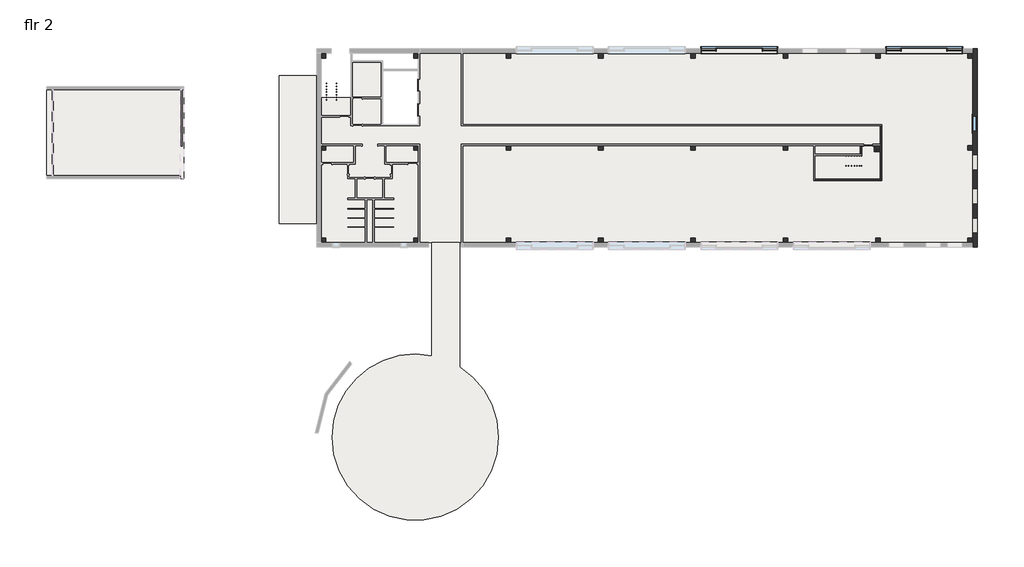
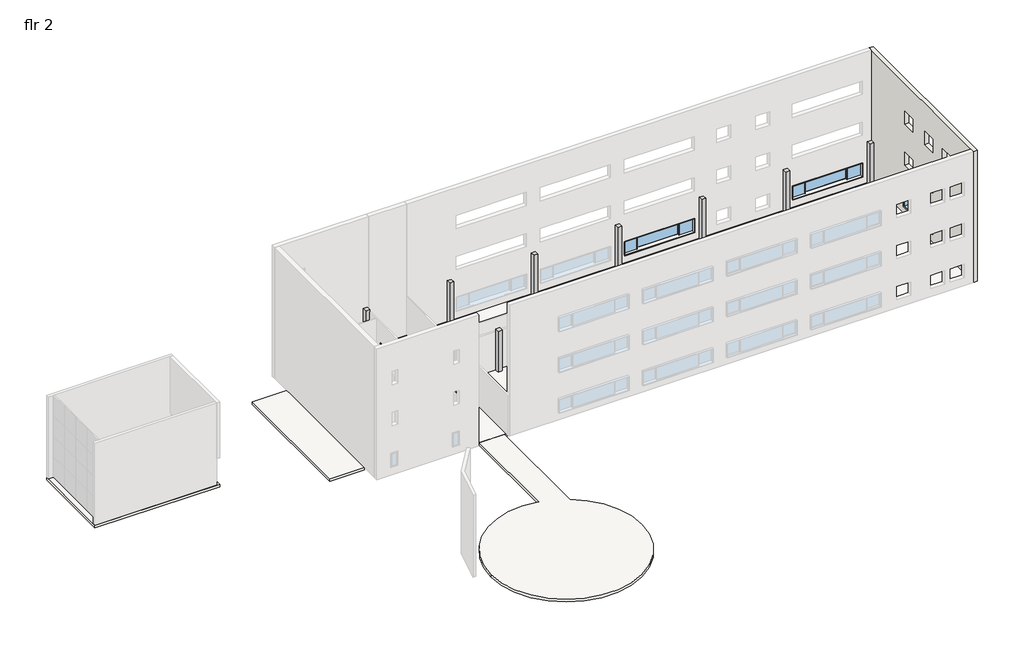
# One storey, part 3 of 3: 24 columns, 6 walls, 4 railings, 4 slabs, 3 windows, 2 proxies, 1 door.
"""IFC4 building model written with IfcOpenShell, lengths in millimetres."""

from ifc_helpers import new_model, si_unit, point, frame, frame_2d, origin, place, context, project, spatial, polyline, circle_curve, trimmed, segment, composite_curve, outline, extrude, faceted_brep, transform, mapped, element, save
from components import proxy_ae548678, column_f6efb254, door_9814c99b, stair_railing_1_b6fe675f, stair_railing_1_c17154a6, stair_railing_1_abf2b38f, stair_railing_1_1af9ef93, fixed_25_x5_r1_fixed_25_x5_r1_81c53d64, fixed_5_x5_e2f24dca

model = new_model("IFC4")

# Units and contexts
model_context = context("Model", 3, world=origin())
ifc_project = project(units=[si_unit("LENGTHUNIT", "METRE", prefix="MILLI")], contexts=[model_context])

# Site, building, storey
site = spatial("IfcSite", under=ifc_project)
building = spatial("IfcBuilding", under=site)
storey = spatial("IfcBuildingStorey", under=building, Name="flr 2", Elevation=5486.4)

# Proxies
placement = place(None, origin())
proxy_shape = proxy_ae548678(model_context)
element("IfcBuildingElementProxy", 1, Name="Elevator-Center : 72\" x 114\" Hospital min.", ObjectType="Elevator-Center : 72\" x 114\" Hospital min.", at=placement, inside=storey, context=model_context, shape_type="MappedRepresentation", body=[
    mapped(proxy_shape, transform((-105880.840902, 38348.4927472, 5486.4), x_axis=(0.0, 1.0, 0.0), y_axis=(-1.0, 0.0, 0.0), z_axis=(0.0, 0.0, 1.0))),
])
element("IfcBuildingElementProxy", 2, Name="Elevator-Center : 72\" x 114\" Hospital min.", ObjectType="Elevator-Center : 72\" x 114\" Hospital min.", at=placement, inside=storey, context=model_context, shape_type="MappedRepresentation", body=[
    mapped(proxy_shape, transform((-105880.840902, 40786.8927472, 5486.4), x_axis=(0.0, 1.0, 0.0), y_axis=(-1.0, 0.0, 0.0), z_axis=(0.0, 0.0, 1.0))),
])

# Columns
element("IfcColumn", 3, ObjectType="Rectangular Column : 18\" x 18\"", at=placement, inside=storey, context=model_context, shape_type="SweptSolid", body=[
    extrude(outline(polyline([(-105950.690902, 25543.0071029), (-105950.690902, 25085.8071029), (-106407.890902, 25085.8071029), (-106407.890902, 25543.0071029), (-105950.690902, 25543.0071029)])), frame((0.0, 0.0, 5486.4), z_axis=(0.0, 0.0, 1.0), x_axis=(1.0, 0.0, 0.0)), (0.0, 0.0, 1.0), 4724.4),
])
element("IfcColumn", 4, ObjectType="Rectangular Column : 18\" x 18\"", at=placement, inside=storey, context=model_context, shape_type="SweptSolid", body=[
    extrude(outline(polyline([(-115094.690902, 34687.0071029), (-115094.690902, 34229.8071029), (-115551.890902, 34229.8071029), (-115551.890902, 34687.0071029), (-115094.690902, 34687.0071029)])), frame((0.0, 0.0, 5486.4), z_axis=(0.0, 0.0, 1.0), x_axis=(1.0, 0.0, 0.0)), (0.0, 0.0, 1.0), 4724.4),
])
element("IfcColumn", 5, ObjectType="Rectangular Column : 18\" x 18\"", at=placement, inside=storey, context=model_context, shape_type="SweptSolid", body=[
    extrude(outline(polyline([(-105950.690902, 34687.0071029), (-105950.690902, 34229.8071029), (-106407.890902, 34229.8071029), (-106407.890902, 34687.0071029), (-105950.690902, 34687.0071029)])), frame((0.0, 0.0, 5486.4), z_axis=(0.0, 0.0, 1.0), x_axis=(1.0, 0.0, 0.0)), (0.0, 0.0, 1.0), 4724.4),
])
element("IfcColumn", 6, ObjectType="Rectangular Column : 18\" x 18\"", at=placement, inside=storey, context=model_context, shape_type="SweptSolid", body=[
    extrude(outline(polyline([(-96806.690902, 34687.0071029), (-96806.690902, 34229.8071029), (-97263.890902, 34229.8071029), (-97263.890902, 34687.0071029), (-96806.690902, 34687.0071029)])), frame((0.0, 0.0, 5486.4), z_axis=(0.0, 0.0, 1.0), x_axis=(1.0, 0.0, 0.0)), (0.0, 0.0, 1.0), 4724.4),
])
element("IfcColumn", 7, ObjectType="Rectangular Column : 18\" x 18\"", at=placement, inside=storey, context=model_context, shape_type="SweptSolid", body=[
    extrude(outline(polyline([(-87662.690902, 34687.0071029), (-87662.690902, 34229.8071029), (-88119.890902, 34229.8071029), (-88119.890902, 34687.0071029), (-87662.690902, 34687.0071029)])), frame((0.0, 0.0, 5486.4), z_axis=(0.0, 0.0, 1.0), x_axis=(1.0, 0.0, 0.0)), (0.0, 0.0, 1.0), 4724.4),
])
element("IfcColumn", 8, ObjectType="Rectangular Column : 18\" x 18\"", at=placement, inside=storey, context=model_context, shape_type="SweptSolid", body=[
    extrude(outline(polyline([(-78518.690902, 34687.0071029), (-78518.690902, 34229.8071029), (-78975.890902, 34229.8071029), (-78975.890902, 34687.0071029), (-78518.690902, 34687.0071029)])), frame((0.0, 0.0, 5486.4), z_axis=(0.0, 0.0, 1.0), x_axis=(1.0, 0.0, 0.0)), (0.0, 0.0, 1.0), 4724.4),
])
element("IfcColumn", 9, ObjectType="Rectangular Column : 18\" x 18\"", at=placement, inside=storey, context=model_context, shape_type="SweptSolid", body=[
    extrude(outline(polyline([(-69374.690902, 34687.0071029), (-69374.690902, 34229.8071029), (-69831.890902, 34229.8071029), (-69831.890902, 34687.0071029), (-69374.690902, 34687.0071029)])), frame((0.0, 0.0, 5486.4), z_axis=(0.0, 0.0, 1.0), x_axis=(1.0, 0.0, 0.0)), (0.0, 0.0, 1.0), 4724.4),
])
element("IfcColumn", 10, ObjectType="Rectangular Column : 18\" x 18\"", at=placement, inside=storey, context=model_context, shape_type="SweptSolid", body=[
    extrude(outline(polyline([(-60230.690902, 34687.0071029), (-60230.690902, 34229.8071029), (-60687.890902, 34229.8071029), (-60687.890902, 34687.0071029), (-60230.690902, 34687.0071029)])), frame((0.0, 0.0, 5486.4), z_axis=(0.0, 0.0, 1.0), x_axis=(1.0, 0.0, 0.0)), (0.0, 0.0, 1.0), 4724.4),
])
element("IfcColumn", 11, ObjectType="Rectangular Column : 18\" x 18\"", at=placement, inside=storey, context=model_context, shape_type="SweptSolid", body=[
    extrude(outline(polyline([(-105950.690902, 43831.0071029), (-105950.690902, 43373.8071029), (-106407.890902, 43373.8071029), (-106407.890902, 43831.0071029), (-105950.690902, 43831.0071029)])), frame((0.0, 0.0, 5486.4), z_axis=(0.0, 0.0, 1.0), x_axis=(1.0, 0.0, 0.0)), (0.0, 0.0, 1.0), 4724.4),
])
column_shape = column_f6efb254(model_context)
element("IfcColumn", 12, ObjectType="Rectangular Column : 18\" x 18\"", at=placement, inside=storey, context=model_context, shape_type="MappedRepresentation", body=[
    mapped(column_shape, transform((-115323.290902, 25314.4071029, 0.0), x_axis=(1.0, 0.0, 0.0), y_axis=(0.0, 1.0, 0.0), z_axis=(0.0, 0.0, 1.0))),
])
element("IfcColumn", 13, ObjectType="Rectangular Column : 18\" x 18\"", at=placement, inside=storey, context=model_context, shape_type="MappedRepresentation", body=[
    mapped(column_shape, transform((-97035.290902, 25314.4071029, 0.0), x_axis=(1.0, 0.0, 0.0), y_axis=(0.0, 1.0, 0.0), z_axis=(0.0, 0.0, 1.0))),
])
element("IfcColumn", 14, ObjectType="Rectangular Column : 18\" x 18\"", at=placement, inside=storey, context=model_context, shape_type="MappedRepresentation", body=[
    mapped(column_shape, transform((-87891.290902, 25314.4071029, 0.0), x_axis=(1.0, 0.0, 0.0), y_axis=(0.0, 1.0, 0.0), z_axis=(0.0, 0.0, 1.0))),
])
element("IfcColumn", 15, ObjectType="Rectangular Column : 18\" x 18\"", at=placement, inside=storey, context=model_context, shape_type="MappedRepresentation", body=[
    mapped(column_shape, transform((-78747.290902, 25314.4071029, 0.0), x_axis=(1.0, 0.0, 0.0), y_axis=(0.0, 1.0, 0.0), z_axis=(0.0, 0.0, 1.0))),
])
element("IfcColumn", 16, ObjectType="Rectangular Column : 18\" x 18\"", at=placement, inside=storey, context=model_context, shape_type="MappedRepresentation", body=[
    mapped(column_shape, transform((-69603.290902, 25314.4071029, 0.0), x_axis=(1.0, 0.0, 0.0), y_axis=(0.0, 1.0, 0.0), z_axis=(0.0, 0.0, 1.0))),
])
element("IfcColumn", 17, ObjectType="Rectangular Column : 18\" x 18\"", at=placement, inside=storey, context=model_context, shape_type="MappedRepresentation", body=[
    mapped(column_shape, transform((-60459.290902, 25314.4071029, 0.0), x_axis=(1.0, 0.0, 0.0), y_axis=(0.0, 1.0, 0.0), z_axis=(0.0, 0.0, 1.0))),
])
element("IfcColumn", 18, ObjectType="Rectangular Column : 18\" x 18\"", at=placement, inside=storey, context=model_context, shape_type="MappedRepresentation", body=[
    mapped(column_shape, transform((-51315.290902, 25314.4071029, 0.0), x_axis=(1.0, 0.0, 0.0), y_axis=(0.0, 1.0, 0.0), z_axis=(0.0, 0.0, 1.0))),
])
element("IfcColumn", 19, ObjectType="Rectangular Column : 18\" x 18\"", at=placement, inside=storey, context=model_context, shape_type="MappedRepresentation", body=[
    mapped(column_shape, transform((-51315.290902, 34458.4071029, 0.0), x_axis=(1.0, 0.0, 0.0), y_axis=(0.0, 1.0, 0.0), z_axis=(0.0, 0.0, 1.0))),
])
element("IfcColumn", 20, ObjectType="Rectangular Column : 18\" x 18\"", at=placement, inside=storey, context=model_context, shape_type="MappedRepresentation", body=[
    mapped(column_shape, transform((-115323.290902, 43602.4071029, 0.0), x_axis=(1.0, 0.0, 0.0), y_axis=(0.0, 1.0, 0.0), z_axis=(0.0, 0.0, 1.0))),
])
element("IfcColumn", 21, ObjectType="Rectangular Column : 18\" x 18\"", at=placement, inside=storey, context=model_context, shape_type="MappedRepresentation", body=[
    mapped(column_shape, transform((-97035.290902, 43602.4071029, 0.0), x_axis=(1.0, 0.0, 0.0), y_axis=(0.0, 1.0, 0.0), z_axis=(0.0, 0.0, 1.0))),
])
element("IfcColumn", 22, ObjectType="Rectangular Column : 18\" x 18\"", at=placement, inside=storey, context=model_context, shape_type="MappedRepresentation", body=[
    mapped(column_shape, transform((-87891.290902, 43602.4071029, 0.0), x_axis=(1.0, 0.0, 0.0), y_axis=(0.0, 1.0, 0.0), z_axis=(0.0, 0.0, 1.0))),
])
element("IfcColumn", 23, ObjectType="Rectangular Column : 18\" x 18\"", at=placement, inside=storey, context=model_context, shape_type="MappedRepresentation", body=[
    mapped(column_shape, transform((-78747.290902, 43602.4071029, 0.0), x_axis=(1.0, 0.0, 0.0), y_axis=(0.0, 1.0, 0.0), z_axis=(0.0, 0.0, 1.0))),
])
element("IfcColumn", 24, ObjectType="Rectangular Column : 18\" x 18\"", at=placement, inside=storey, context=model_context, shape_type="MappedRepresentation", body=[
    mapped(column_shape, transform((-69603.290902, 43602.4071029, 0.0), x_axis=(1.0, 0.0, 0.0), y_axis=(0.0, 1.0, 0.0), z_axis=(0.0, 0.0, 1.0))),
])
element("IfcColumn", 25, ObjectType="Rectangular Column : 18\" x 18\"", at=placement, inside=storey, context=model_context, shape_type="MappedRepresentation", body=[
    mapped(column_shape, transform((-60459.290902, 43602.4071029, 0.0), x_axis=(1.0, 0.0, 0.0), y_axis=(0.0, 1.0, 0.0), z_axis=(0.0, 0.0, 1.0))),
])
element("IfcColumn", 26, ObjectType="Rectangular Column : 18\" x 18\"", at=placement, inside=storey, context=model_context, shape_type="MappedRepresentation", body=[
    mapped(column_shape, transform((-51315.290902, 43602.4071029, 0.0), x_axis=(1.0, 0.0, 0.0), y_axis=(0.0, 1.0, 0.0), z_axis=(0.0, 0.0, 1.0))),
])

# Door
door_shape = door_9814c99b(model_context)
element("IfcDoor", 27, ObjectType="Sgl Flush : 36\" x 84\"", at=placement, inside=storey, context=model_context, shape_type="MappedRepresentation", body=[
    mapped(door_shape, transform((-61399.090902, 34756.8571029, 5486.4), x_axis=(1.0, 0.0, 0.0), y_axis=(0.0, 1.0, 0.0), z_axis=(0.0, 0.0, 1.0))),
])

# Railings
stair_railing_1_shape = stair_railing_1_b6fe675f(model_context)
element("IfcRailing", 28, ObjectType="Stair Railing 1", at=placement, inside=storey, context=model_context, shape_type="MappedRepresentation", body=[
    mapped(stair_railing_1_shape, transform((0.0, 0.0, 0.0), x_axis=(1.0, 0.0, 0.0), y_axis=(0.0, 1.0, 0.0), z_axis=(0.0, 0.0, 1.0))),
])
stair_railing_1_2_shape = stair_railing_1_c17154a6(model_context)
element("IfcRailing", 29, ObjectType="Stair Railing 1", at=placement, inside=storey, context=model_context, shape_type="MappedRepresentation", body=[
    mapped(stair_railing_1_2_shape, transform((0.0, 0.0, 0.0), x_axis=(1.0, 0.0, 0.0), y_axis=(0.0, 1.0, 0.0), z_axis=(0.0, 0.0, 1.0))),
])
stair_railing_1_3_shape = stair_railing_1_abf2b38f(model_context)
element("IfcRailing", 30, ObjectType="Stair Railing 1", at=placement, inside=storey, context=model_context, shape_type="MappedRepresentation", body=[
    mapped(stair_railing_1_3_shape, transform((0.0, 0.0, 0.0), x_axis=(1.0, 0.0, 0.0), y_axis=(0.0, 1.0, 0.0), z_axis=(0.0, 0.0, 1.0))),
])
stair_railing_1_4_shape = stair_railing_1_1af9ef93(model_context)
element("IfcRailing", 31, ObjectType="Stair Railing 1", at=placement, inside=storey, context=model_context, shape_type="MappedRepresentation", body=[
    mapped(stair_railing_1_4_shape, transform((0.0, 0.0, 0.0), x_axis=(1.0, 0.0, 0.0), y_axis=(0.0, 1.0, 0.0), z_axis=(0.0, 0.0, 1.0))),
])

# Slabs
element("IfcSlab", 32, ObjectType="Generic - 12\"", at=placement, inside=storey, context=model_context, shape_type="SweptSolid", body=[
    extrude(outline(polyline([(-129194.865902, 40551.2321029), (-129194.865902, 31420.1262968), (-142755.290902, 31420.1262968), (-142755.290902, 40551.2321029), (-129194.865902, 40551.2321029)])), frame((0.0, 0.0, 5181.6), z_axis=(0.0, 0.0, 1.0), x_axis=(1.0, 0.0, 0.0)), (0.0, 0.0, 1.0), 304.8),
])
element("IfcSlab", 33, ObjectType="Generic - 12\"", at=placement, inside=storey, context=model_context, shape_type="SweptSolid", body=[
    extrude(outline(polyline([(-119739.715902, 41618.0321029), (-116007.8828209, 41618.0321029), (-116007.8828209, 26993.9821029), (-119739.715902, 26993.9821029), (-119739.715902, 41618.0321029)])), frame((0.0, 0.0, 5181.6), z_axis=(0.0, 0.0, 1.0), x_axis=(1.0, 0.0, 0.0)), (0.0, 0.0, 1.0), 304.8),
])
element("IfcSlab", 34, ObjectType="Generic - 12\"", at=placement, inside=storey, context=model_context, shape_type="SweptSolid", body=[
    extrude(outline(composite_curve([segment(trimmed(circle_curve(frame_2d((-106255.490902, 5807.2071029)), 8229.6), [point((-101864.8074925, 12767.6823279))], [point((-98025.890902, 5807.2071029))], False, "CARTESIAN"), True, "CONTINUOUS"), segment(trimmed(circle_curve(frame_2d((-106255.490902, 5807.2071029)), 8229.6), [point((-98025.890902, 5807.2071029))], [point((-114485.090902, 5807.2071029))], False, "CARTESIAN"), True, "CONTINUOUS"), segment(trimmed(circle_curve(frame_2d((-106255.490902, 5807.2071029)), 8229.6), [point((-114485.090902, 5807.2071029))], [point((-104601.6574925, 13868.9160541))], False, "CARTESIAN"), True, "CONTINUOUS"), segment(polyline([(-104601.6574925, 13868.9160541), (-104601.6574925, 25084.2196029), (-101864.8074925, 25084.2196029), (-101864.8074925, 12767.6823279)]), True, "CONTINUOUS")], self_intersect=False)), frame((0.0, 0.0, 5181.6), z_axis=(0.0, 0.0, 1.0), x_axis=(1.0, 0.0, 0.0)), (0.0, 0.0, 1.0), 304.8),
])
element("IfcSlab", 35, ObjectType="Generic - 12\"", at=placement, inside=storey, context=model_context, shape_type="SweptSolid", body=[
    extrude(outline(polyline([(-51085.103402, 43832.5946029), (-51085.103402, 25084.2196029), (-115553.8578209, 25084.2196029), (-115553.8578209, 39436.8071029), (-112649.940902, 39436.8071029), (-112649.940902, 43119.8071029), (-109493.990902, 43119.8071029), (-109493.990902, 36795.2071029), (-105950.690902, 36795.2071029), (-105950.690902, 43832.5946029), (-51085.103402, 43832.5946029)])), frame((0.0, 0.0, 5181.6), z_axis=(0.0, 0.0, 1.0), x_axis=(1.0, 0.0, 0.0)), (0.0, 0.0, 1.0), 304.8),
])

# Walls
element("IfcWall", 36, ObjectType="Interior - 5 1/2\" Partition (1-hr)", at=placement, inside=storey, context=model_context, shape_type="Brep", body=[
    faceted_brep([(-60230.690902, 36655.5071029, 5486.4), (-60230.690902, 34826.7071029, 5486.4), (-60230.690902, 34687.0071029, 5486.4), (-60230.690902, 34229.8071029, 5486.4), (-60230.690902, 34090.1071029, 5486.4), (-60230.690902, 31372.3071029, 5486.4), (-60230.690902, 31232.6071029, 5486.4), (-60230.690902, 31232.6071029, 9906.0), (-60230.690902, 31372.3071029, 9906.0), (-60230.690902, 34090.1071029, 9906.0), (-60230.690902, 34229.8071029, 9906.0), (-60230.690902, 34687.0071029, 9906.0), (-60230.690902, 34826.7071029, 9906.0), (-60230.690902, 36655.5071029, 9906.0), (-60090.990902, 36655.5071029, 5486.4), (-60090.990902, 36655.5071029, 9906.0), (-60090.990902, 31232.6071029, 9906.0), (-60090.990902, 31232.6071029, 5486.4)], [[[0, 1, 2, 3, 4, 5, 6, 7, 8, 9, 10, 11, 12, 13]], [[14, 15, 16, 17]], [[6, 5, 4, 3, 2, 1, 0, 14, 17]], [[7, 6, 17, 16]], [[0, 13, 15, 14]], [[13, 12, 11, 10, 9, 8, 7, 16, 15]]]),
])
element("IfcWall", 37, ObjectType="Interior - 5 1/2\" Partition (1-hr)", at=placement, inside=storey, context=model_context, shape_type="SweptSolid", body=[
    extrude(outline(polyline([(-62205.540902, 33867.8571029), (-62205.540902, 34687.0071029), (-62065.840902, 34687.0071029), (-62065.840902, 33867.8571029), (-62205.540902, 33867.8571029)])), frame((0.0, 0.0, 5486.4), z_axis=(0.0, 0.0, 1.0), x_axis=(1.0, 0.0, 0.0)), (0.0, 0.0, 1.0), 4419.6),
])
element("IfcWall", 38, ObjectType="Interior - 5 1/2\" Partition (1-hr)", at=placement, inside=storey, context=model_context, shape_type="Brep", body=[
    faceted_brep([(-60827.590902, 34687.0071029, 5486.4), (-60827.590902, 34090.1071029, 5486.4), (-60827.590902, 34090.1071029, 9906.0), (-60827.590902, 34687.0071029, 9906.0), (-60687.890902, 34687.0071029, 5486.4), (-60687.890902, 34687.0071029, 9906.0), (-60687.890902, 34229.8071029, 9906.0), (-60687.890902, 34090.1071029, 9906.0), (-60687.890902, 34090.1071029, 5486.4), (-60687.890902, 34229.8071029, 5486.4)], [[[0, 1, 2, 3]], [[4, 5, 6, 7, 8, 9]], [[1, 0, 4, 9, 8]], [[2, 1, 8, 7]], [[0, 3, 5, 4]], [[3, 2, 7, 6, 5]]]),
])
element("IfcWall", 39, ObjectType="Interior - 5 1/2\" Partition (1-hr)", at=placement, inside=storey, context=model_context, shape_type="SweptSolid", body=[
    extrude(outline(polyline([(-60687.890902, 34229.8071029), (-60230.690902, 34229.8071029), (-60230.690902, 34090.1071029), (-60687.890902, 34090.1071029), (-60687.890902, 34229.8071029)])), frame((0.0, 0.0, 5486.4), z_axis=(0.0, 0.0, 1.0), x_axis=(1.0, 0.0, 0.0)), (0.0, 0.0, 1.0), 4419.6),
])
element("IfcWall", 40, ObjectType="Interior - 5 1/2\" Partition (1-hr)", at=placement, inside=storey, context=model_context, shape_type="Brep", body=[
    faceted_brep([(-66688.640902, 31232.6071029, 5486.4), (-60230.690902, 31232.6071029, 5486.4), (-60230.690902, 31232.6071029, 9906.0), (-66688.640902, 31232.6071029, 9906.0), (-66688.640902, 31372.3071029, 5486.4), (-66688.640902, 31372.3071029, 9906.0), (-62318.5594944, 31372.3071029, 9906.0), (-60230.690902, 31372.3071029, 9906.0), (-60230.690902, 31372.3071029, 5486.4)], [[[0, 1, 2, 3]], [[4, 5, 6, 7, 8]], [[1, 0, 4, 8]], [[0, 3, 5, 4]], [[2, 1, 8, 7]], [[3, 2, 7, 6, 5]]]),
])
element("IfcWall", 41, ObjectType="a_Stone on CMU", at=placement, inside=storey, context=model_context, shape_type="Brep", body=[
    faceted_brep([(-51085.103402, 44286.6196029, 5486.4), (-51085.103402, 43832.5946029, 5486.4), (-51085.103402, 25084.2196029, 5486.4), (-51085.103402, 24630.1946029, 5486.4), (-51085.103402, 24630.1946029, 20574.0), (-51085.103402, 25084.2196029, 20574.0), (-51085.103402, 43832.5946029, 20574.0), (-51085.103402, 44286.6196029, 20574.0), (-51085.103402, 36058.6071029, 17373.6), (-51085.103402, 36058.6071029, 15849.6), (-51085.103402, 37582.6071029, 15849.6), (-51085.103402, 37582.6071029, 17373.6), (-51085.103402, 36058.6071029, 12649.2), (-51085.103402, 36058.6071029, 11125.2), (-51085.103402, 37582.6071029, 11125.2), (-51085.103402, 37582.6071029, 12649.2), (-51085.103402, 36109.4071029, 7924.8), (-51085.103402, 36109.4071029, 6400.8), (-51085.103402, 37633.4071029, 6400.8), (-51085.103402, 37633.4071029, 7924.8), (-51085.103402, 26019.2571029, 12649.2), (-51085.103402, 26019.2571029, 11125.2), (-51085.103402, 27543.2571029, 11125.2), (-51085.103402, 27543.2571029, 12649.2), (-51085.103402, 32267.6571029, 12649.2), (-51085.103402, 32267.6571029, 11125.2), (-51085.103402, 33791.6571029, 11125.2), (-51085.103402, 33791.6571029, 12649.2), (-51085.103402, 28914.8571029, 12649.2), (-51085.103402, 28914.8571029, 11125.2), (-51085.103402, 30438.8571029, 11125.2), (-51085.103402, 30438.8571029, 12649.2), (-51085.103402, 26019.2571029, 7899.4), (-51085.103402, 26019.2571029, 6375.4), (-51085.103402, 27543.2571029, 6375.4), (-51085.103402, 27543.2571029, 7899.4), (-51085.103402, 32267.6571029, 7899.4), (-51085.103402, 32267.6571029, 6375.4), (-51085.103402, 33791.6571029, 6375.4), (-51085.103402, 33791.6571029, 7899.4), (-51085.103402, 28914.8571029, 7899.4), (-51085.103402, 28914.8571029, 6375.4), (-51085.103402, 30438.8571029, 6375.4), (-51085.103402, 30438.8571029, 7899.4), (-51085.103402, 26019.2571029, 17348.2), (-51085.103402, 26019.2571029, 15824.2), (-51085.103402, 27543.2571029, 15824.2), (-51085.103402, 27543.2571029, 17348.2), (-51085.103402, 32267.6571029, 17348.2), (-51085.103402, 32267.6571029, 15824.2), (-51085.103402, 33791.6571029, 15824.2), (-51085.103402, 33791.6571029, 17348.2), (-51085.103402, 28914.8571029, 17348.2), (-51085.103402, 28914.8571029, 15824.2), (-51085.103402, 30438.8571029, 15824.2), (-51085.103402, 30438.8571029, 17348.2), (-50631.078402, 44286.6196029, 5486.4), (-50631.078402, 44286.6196029, 20574.0), (-50631.078402, 24630.1946029, 20574.0), (-50631.078402, 24630.1946029, 5486.4), (-50631.078402, 36058.6071029, 17373.6), (-50631.078402, 37582.6071029, 17373.6), (-50631.078402, 37582.6071029, 15849.6), (-50631.078402, 36058.6071029, 15849.6), (-50631.078402, 36058.6071029, 12649.2), (-50631.078402, 37582.6071029, 12649.2), (-50631.078402, 37582.6071029, 11125.2), (-50631.078402, 36058.6071029, 11125.2), (-50631.078402, 36109.4071029, 7924.8), (-50631.078402, 37633.4071029, 7924.8), (-50631.078402, 37633.4071029, 6400.8), (-50631.078402, 36109.4071029, 6400.8), (-50631.078402, 26019.2571029, 12649.2), (-50631.078402, 27543.2571029, 12649.2), (-50631.078402, 27543.2571029, 11125.2), (-50631.078402, 26019.2571029, 11125.2), (-50631.078402, 32267.6571029, 12649.2), (-50631.078402, 33791.6571029, 12649.2), (-50631.078402, 33791.6571029, 11125.2), (-50631.078402, 32267.6571029, 11125.2), (-50631.078402, 28914.8571029, 12649.2), (-50631.078402, 30438.8571029, 12649.2), (-50631.078402, 30438.8571029, 11125.2), (-50631.078402, 28914.8571029, 11125.2), (-50631.078402, 26019.2571029, 7899.4), (-50631.078402, 27543.2571029, 7899.4), (-50631.078402, 27543.2571029, 6375.4), (-50631.078402, 26019.2571029, 6375.4), (-50631.078402, 32267.6571029, 7899.4), (-50631.078402, 33791.6571029, 7899.4), (-50631.078402, 33791.6571029, 6375.4), (-50631.078402, 32267.6571029, 6375.4), (-50631.078402, 28914.8571029, 7899.4), (-50631.078402, 30438.8571029, 7899.4), (-50631.078402, 30438.8571029, 6375.4), (-50631.078402, 28914.8571029, 6375.4), (-50631.078402, 26019.2571029, 17348.2), (-50631.078402, 27543.2571029, 17348.2), (-50631.078402, 27543.2571029, 15824.2), (-50631.078402, 26019.2571029, 15824.2), (-50631.078402, 32267.6571029, 17348.2), (-50631.078402, 33791.6571029, 17348.2), (-50631.078402, 33791.6571029, 15824.2), (-50631.078402, 32267.6571029, 15824.2), (-50631.078402, 28914.8571029, 17348.2), (-50631.078402, 30438.8571029, 17348.2), (-50631.078402, 30438.8571029, 15824.2), (-50631.078402, 28914.8571029, 15824.2)], [[[0, 1, 2, 3, 4, 5, 6, 7], [8, 9, 10, 11], [12, 13, 14, 15], [16, 17, 18, 19], [20, 21, 22, 23], [24, 25, 26, 27], [28, 29, 30, 31], [32, 33, 34, 35], [36, 37, 38, 39], [40, 41, 42, 43], [44, 45, 46, 47], [48, 49, 50, 51], [52, 53, 54, 55]], [[56, 57, 58, 59], [60, 61, 62, 63], [64, 65, 66, 67], [68, 69, 70, 71], [72, 73, 74, 75], [76, 77, 78, 79], [80, 81, 82, 83], [84, 85, 86, 87], [88, 89, 90, 91], [92, 93, 94, 95], [96, 97, 98, 99], [100, 101, 102, 103], [104, 105, 106, 107]], [[3, 2, 1, 0, 56, 59]], [[7, 6, 5, 4, 58, 57]], [[4, 3, 59, 58]], [[0, 7, 57, 56]], [[9, 8, 60, 63]], [[10, 9, 63, 62]], [[11, 10, 62, 61]], [[8, 11, 61, 60]], [[13, 12, 64, 67]], [[14, 13, 67, 66]], [[15, 14, 66, 65]], [[12, 15, 65, 64]], [[17, 16, 68, 71]], [[18, 17, 71, 70]], [[19, 18, 70, 69]], [[16, 19, 69, 68]], [[21, 20, 72, 75]], [[22, 21, 75, 74]], [[23, 22, 74, 73]], [[20, 23, 73, 72]], [[25, 24, 76, 79]], [[26, 25, 79, 78]], [[27, 26, 78, 77]], [[24, 27, 77, 76]], [[29, 28, 80, 83]], [[30, 29, 83, 82]], [[31, 30, 82, 81]], [[28, 31, 81, 80]], [[33, 32, 84, 87]], [[34, 33, 87, 86]], [[35, 34, 86, 85]], [[32, 35, 85, 84]], [[37, 36, 88, 91]], [[38, 37, 91, 90]], [[39, 38, 90, 89]], [[36, 39, 89, 88]], [[41, 40, 92, 95]], [[42, 41, 95, 94]], [[43, 42, 94, 93]], [[40, 43, 93, 92]], [[45, 44, 96, 99]], [[46, 45, 99, 98]], [[47, 46, 98, 97]], [[44, 47, 97, 96]], [[49, 48, 100, 103]], [[50, 49, 103, 102]], [[51, 50, 102, 101]], [[48, 51, 101, 100]], [[53, 52, 104, 107]], [[54, 53, 107, 106]], [[55, 54, 106, 105]], [[52, 55, 105, 104]]]),
])

# Windows
fixed_25_x5_r1_fixed_25_x5_r1_shape = fixed_25_x5_r1_fixed_25_x5_r1_81c53d64(model_context)
element("IfcWindow", 42, ObjectType="Fixed 25'x5'-r1 : Fixed 25'x5'-r1", at=placement, inside=storey, context=model_context, shape_type="MappedRepresentation", body=[
    mapped(fixed_25_x5_r1_fixed_25_x5_r1_shape, transform((-73921.290902, 44059.6071029, 5486.4), x_axis=(1.0, 0.0, 0.0), y_axis=(0.0, 1.0, 0.0), z_axis=(0.0, 0.0, 1.0))),
])
element("IfcWindow", 43, ObjectType="Fixed 25'x5'-r1 : Fixed 25'x5'-r1", at=placement, inside=storey, context=model_context, shape_type="MappedRepresentation", body=[
    mapped(fixed_25_x5_r1_fixed_25_x5_r1_shape, transform((-55633.290902, 44059.6071029, 5486.4), x_axis=(1.0, 0.0, 0.0), y_axis=(0.0, 1.0, 0.0), z_axis=(0.0, 0.0, 1.0))),
])
fixed_5_x5_shape = fixed_5_x5_e2f24dca(model_context)
element("IfcWindow", 44, ObjectType="Fixed : 5'x5'", at=placement, inside=storey, context=model_context, shape_type="MappedRepresentation", body=[
    mapped(fixed_5_x5_shape, transform((-50858.090902, 36833.3071029, 5486.4), x_axis=(0.0, -1.0, 0.0), y_axis=(1.0, 0.0, 0.0), z_axis=(0.0, 0.0, 1.0))),
])

save(model, "model.ifc")
